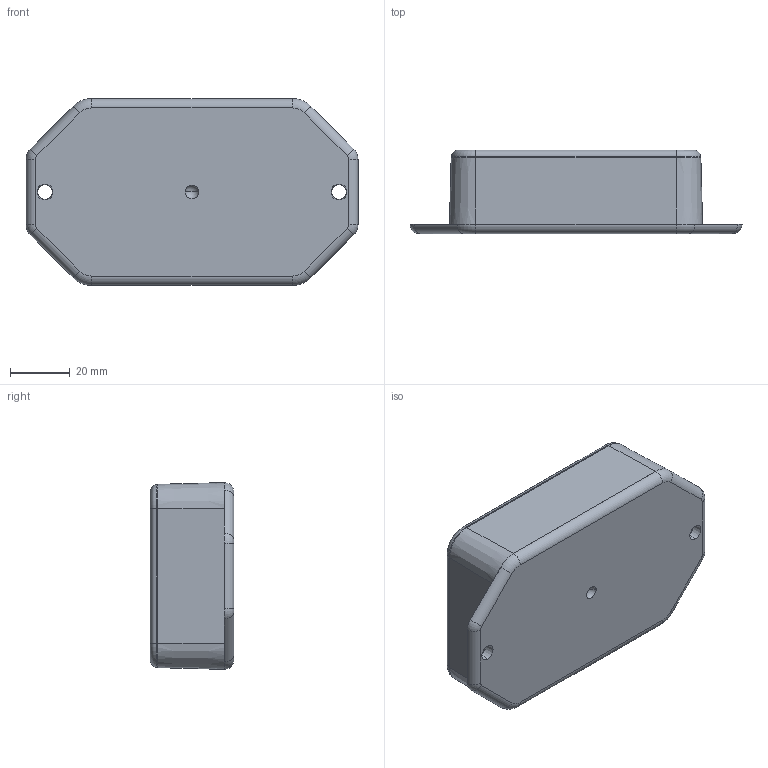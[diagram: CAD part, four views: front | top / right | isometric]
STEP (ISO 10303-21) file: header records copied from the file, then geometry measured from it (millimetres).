
FILE_DESCRIPTION (( 'STEP AP214' ), '1' );
FILE_NAME ('LP-21FXXR.STEP', '2025-03-28T18:04:29', ( '' ), ( '' ), 'SwSTEP 2.0', 'SolidWorks 2025', '' );
FILE_SCHEMA (( 'AUTOMOTIVE_DESIGN' ));
Length unit declared in the file: inch
Products named in the file (4): LP-21C_LP-21C-R; LP-21B_LP-21BFXX; SCREWS-LP-BR_SCREWS-LP-BR; LP-21FXXR
Assembly tree (6 placements, depth 2):
  LP-21FXXR
    LP-21B_LP-21BFXX
    LP-21C_LP-21C-R
    SCREWS-LP-BR_SCREWS-LP-BR  x4
Bounding box: 111.24 x 27.97 x 62.59 mm (x, y, z)
Volume: 46526.4 mm3; surface area: 39321.5 mm2
Topology: 6 solids, 6 shells, 877 faces, 2206 edges, 1326 vertices
Faces by surface type: cylinder 332, plane 165, bspline 160, torus 100, cone 76, sphere 44
Entity records: 12886 total; most frequent: CARTESIAN_POINT 4071, ORIENTED_EDGE 1888, DIRECTION 1821, EDGE_CURVE 944, AXIS2_PLACEMENT_3D 727, VERTEX_POINT 585, EDGE_LOOP 405, FACE_OUTER_BOUND 379
